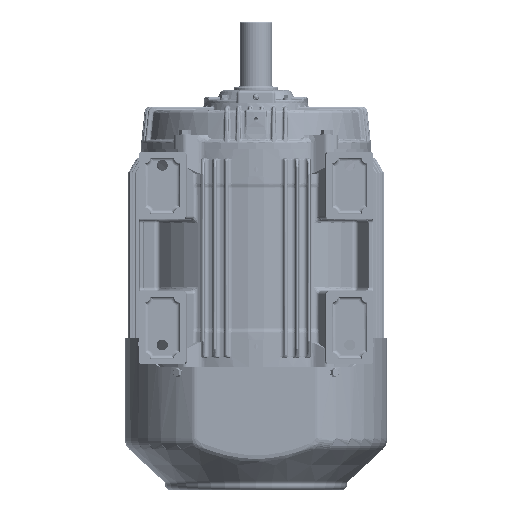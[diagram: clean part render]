
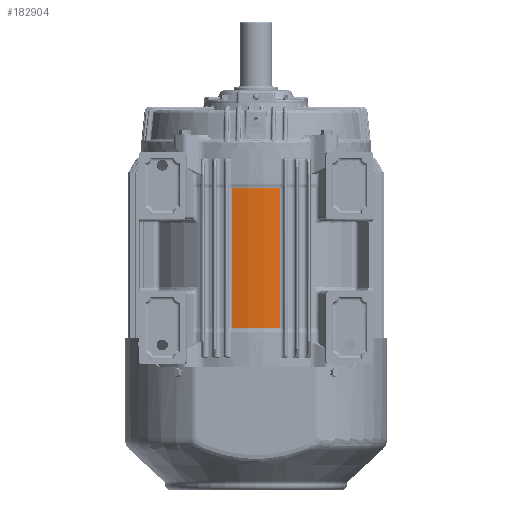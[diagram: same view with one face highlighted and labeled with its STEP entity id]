
A CAD part, front view. The second image highlights one B-rep face of the part: STEP entity #182904.
In plain terms, the highlighted cylindrical face has radius 193.5 mm (diameter 387 mm), a partial arc.
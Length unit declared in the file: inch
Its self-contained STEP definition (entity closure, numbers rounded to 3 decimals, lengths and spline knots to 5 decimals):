
#11514 = EDGE_CURVE ( 'NONE', #198602, #12142, #329437, .T. ) ;
#12142 = VERTEX_POINT ( 'NONE', #163402 ) ;
#35511 = EDGE_LOOP ( 'NONE', ( #101247, #169121, #312127, #62467 ) ) ;
#55669 = EDGE_CURVE ( 'NONE', #198602, #245123, #270163, .T. ) ;
#62467 = ORIENTED_EDGE ( 'NONE', *, *, #55669, .T. ) ;
#77392 = DIRECTION ( 'NONE',  ( 0., 0., 1. ) ) ;
#93716 = AXIS2_PLACEMENT_3D ( 'NONE', #230207, #95619, #367040 ) ;
#95478 = DIRECTION ( 'NONE',  ( 1., 0., 0. ) ) ;
#95619 = DIRECTION ( 'NONE',  ( 0., 0., 1. ) ) ;
#101247 = ORIENTED_EDGE ( 'NONE', *, *, #282502, .T. ) ;
#105041 = DIRECTION ( 'NONE',  ( 0., 0., 1. ) ) ;
#115432 = DIRECTION ( 'NONE',  ( 1., 0., 0. ) ) ;
#127076 = CYLINDRICAL_SURFACE ( 'NONE', #93716, 7.61811 ) ;
#128373 = CARTESIAN_POINT ( 'NONE',  ( 1.59341, -7.44961, -4.67258 ) ) ;
#151897 = VECTOR ( 'NONE', #171403, 39.37008 ) ;
#163402 = CARTESIAN_POINT ( 'NONE',  ( 1.59341, -7.44961, 4.67258 ) ) ;
#169121 = ORIENTED_EDGE ( 'NONE', *, *, #438322, .T. ) ;
#171403 = DIRECTION ( 'NONE',  ( 0., 0., -1. ) ) ;
#182186 = VECTOR ( 'NONE', #105041, 39.37008 ) ;
#182904 = ADVANCED_FACE ( 'NONE', ( #434381 ), #127076, .T. ) ;
#194429 = VERTEX_POINT ( 'NONE', #128373 ) ;
#198602 = VERTEX_POINT ( 'NONE', #359877 ) ;
#230207 = CARTESIAN_POINT ( 'NONE',  ( 0., 0., 3.68573 ) ) ;
#241163 = CARTESIAN_POINT ( 'NONE',  ( 0., 0., -4.67258 ) ) ;
#245123 = VERTEX_POINT ( 'NONE', #334100 ) ;
#252935 = AXIS2_PLACEMENT_3D ( 'NONE', #241163, #77392, #115432 ) ;
#270163 = LINE ( 'NONE', #373318, #151897 ) ;
#279096 = AXIS2_PLACEMENT_3D ( 'NONE', #292940, #402748, #95478 ) ;
#282502 = EDGE_CURVE ( 'NONE', #245123, #194429, #381978, .T. ) ;
#292940 = CARTESIAN_POINT ( 'NONE',  ( 0., 0., 4.67258 ) ) ;
#312127 = ORIENTED_EDGE ( 'NONE', *, *, #11514, .F. ) ;
#329437 = CIRCLE ( 'NONE', #279096, 7.61811 ) ;
#334100 = CARTESIAN_POINT ( 'NONE',  ( -1.59341, -7.44961, -4.67258 ) ) ;
#342863 = CARTESIAN_POINT ( 'NONE',  ( 1.59341, -7.44961, 3.68573 ) ) ;
#359877 = CARTESIAN_POINT ( 'NONE',  ( -1.59341, -7.44961, 4.67258 ) ) ;
#367040 = DIRECTION ( 'NONE',  ( 1., 0., 0. ) ) ;
#369934 = LINE ( 'NONE', #342863, #182186 ) ;
#373318 = CARTESIAN_POINT ( 'NONE',  ( -1.59341, -7.44961, 3.68573 ) ) ;
#381978 = CIRCLE ( 'NONE', #252935, 7.61811 ) ;
#402748 = DIRECTION ( 'NONE',  ( 0., 0., 1. ) ) ;
#434381 = FACE_OUTER_BOUND ( 'NONE', #35511, .T. ) ;
#438322 = EDGE_CURVE ( 'NONE', #194429, #12142, #369934, .T. ) ;
